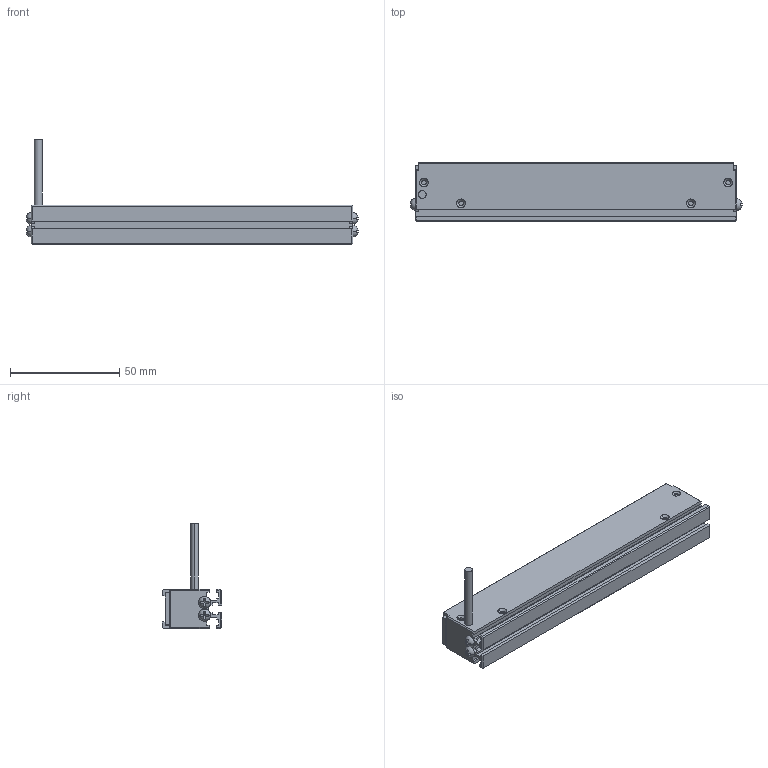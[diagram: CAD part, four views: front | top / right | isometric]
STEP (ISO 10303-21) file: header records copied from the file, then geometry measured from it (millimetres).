
FILE_DESCRIPTION((''),'2;1');
FILE_NAME('MV-LLDS-147-18_ASM','2020-12-29T',('Administrator'),(''),'PRO/ENGINEER BY PARAMETRIC TECHNOLOGY CORPORATION, 2010100','PRO/ENGINEER BY PARAMETRIC TECHNOLOGY CORPORATION, 2010100','');
FILE_SCHEMA(('CONFIG_CONTROL_DESIGN'));
Length unit declared in the file: millimetre
Products named in the file (3): BL_2_-_3_; M3-5_3; MV-LLDS-147-18_ASM
Assembly tree (5 placements, depth 2):
  MV-LLDS-147-18_ASM
    BL_2_-_3_
    M3-5_3  x4
Bounding box: 151.68 x 27 x 48 mm (x, y, z)
Volume: 58621.8 mm3; surface area: 27745.9 mm2
Topology: 5 solids, 13 shells, 311 faces, 796 edges, 508 vertices
Faces by surface type: plane 173, cylinder 78, cone 28, bspline 16, torus 8, sphere 8
Entity records: 6781 total; most frequent: CARTESIAN_POINT 1439, DIRECTION 1108, ORIENTED_EDGE 1062, EDGE_CURVE 541, AXIS2_PLACEMENT_3D 372, VECTOR 364, LINE 364, VERTEX_POINT 349
